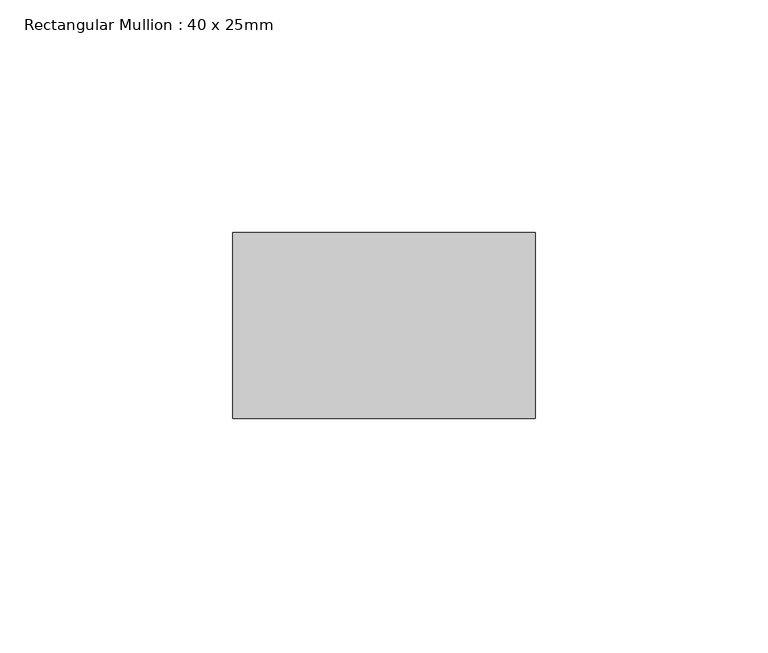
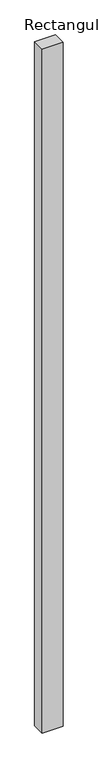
"""IFC4 building model written with IfcOpenShell, lengths in millimetres: member geometry, Rectangular Mullion : 40 x 25mm."""

import ifcopenshell
import ifcopenshell.guid

model = None  # the IFC model being written
_history = None  # IfcOwnerHistory: only IFC2X3 demands one
_inside = {}  # id of a spatial element -> (the spatial element, [elements in it])
_under = {}  # id of a project, library or spatial element -> (it, [spatial elements below it])
_declared = {}  # id of a project -> (the project, [libraries it declares])
_typed = {}  # id of a type object -> (the type object, [elements of that type])
_made_of = {}  # id of a material, layer set ... -> (it, [elements and type objects made of it])


def new_model(schema):
    """Start an empty IFC model of exactly this schema.

    Asked for "IFC4X3", IfcOpenShell would pick the latest addendum, in which some entities
    have other attributes; the version numbers below select the first issue.
    IFC2X3 requires an IfcOwnerHistory on every rooted entity: one is made here for all.
    """
    global model, _history
    if schema == "IFC4X3":
        model = ifcopenshell.file(schema_version=(4, 3, 0, 0))
    else:
        model = ifcopenshell.file(schema=schema)
    _inside.clear()
    _under.clear()
    _declared.clear()
    _typed.clear()
    _made_of.clear()
    _history = None
    if model.schema == "IFC2X3":
        org = make("IfcOrganization", Name="unknown")
        user = make(
            "IfcPersonAndOrganization",
            ThePerson=make("IfcPerson", FamilyName="unknown"),
            TheOrganization=org,
        )
        app = make(
            "IfcApplication",
            ApplicationDeveloper=org,
            Version="unknown",
            ApplicationFullName="unknown",
            ApplicationIdentifier="unknown",
        )
        _history = make(
            "IfcOwnerHistory",
            OwningUser=user,
            OwningApplication=app,
            ChangeAction="ADDED",
            CreationDate=0,
        )
    return model


def make(cls, **values):
    """One entity of the class cls with the attributes given. An attribute that is None is left unset."""
    return model.create_entity(
        cls, **{name: value for name, value in values.items() if value is not None}
    )


def rooted(cls, **values):
    """An entity with a GlobalId (a new one), such as an element, a storey or a relation."""
    return make(cls, GlobalId=ifcopenshell.guid.new(), OwnerHistory=_history, **values)


def si_unit(unit_type, name, prefix=None):
    """IfcSIUnit, for example si_unit("LENGTHUNIT", "METRE", prefix="MILLI")."""
    return make("IfcSIUnit", UnitType=unit_type, Prefix=prefix, Name=name)


def assignment(units):
    """IfcUnitAssignment: the units of a project."""
    return None if units is None else make("IfcUnitAssignment", Units=units)


def point(xyz):
    """IfcCartesianPoint."""
    return None if xyz is None else make("IfcCartesianPoint", Coordinates=xyz)


def direction(xyz):
    """IfcDirection."""
    return None if xyz is None else make("IfcDirection", DirectionRatios=xyz)


def frame(location, z_axis=None, x_axis=None):
    """IfcAxis2Placement3D, a coordinate frame: its origin and axes. An axis left out is left unset."""
    return make(
        "IfcAxis2Placement3D",
        Location=point(location),
        Axis=direction(z_axis),
        RefDirection=direction(x_axis),
    )


def origin():
    """The frame at (0, 0, 0) with its axes left unset."""
    return frame((0.0, 0.0, 0.0))


def place(relative_to, where):
    """IfcLocalPlacement: puts the frame where relative to a parent placement (None: the world)."""
    return make(
        "IfcLocalPlacement", PlacementRelTo=relative_to, RelativePlacement=where
    )


def context(
    kind, dimensions, precision=None, world=None, true_north=None, identifier=None
):
    """IfcGeometricRepresentationContext, for example the 3D "Model" context."""
    return make(
        "IfcGeometricRepresentationContext",
        ContextIdentifier=identifier,
        ContextType=kind,
        CoordinateSpaceDimension=dimensions,
        Precision=precision,
        WorldCoordinateSystem=world,
        TrueNorth=true_north,
    )


def project(units=None, contexts=None):
    """IfcProject with its units and contexts."""
    return rooted(
        "IfcProject",
        Name="project",
        RepresentationContexts=contexts,
        UnitsInContext=assignment(units),
    )


def spatial(cls, under=None, at=None, **own):
    """A site, building, storey or space (cls), placed at a placement, below another one or the project."""
    s = rooted(cls, ObjectPlacement=at, **own)
    if under is not None:
        _under.setdefault(under.id(), (under, []))[1].append(s)
    return s


def polyline(points):
    """IfcPolyline through the points."""
    return make("IfcPolyline", Points=[point(p) for p in points])


def outline(outer, holes=None, kind="AREA"):
    """IfcArbitraryClosedProfileDef: a profile drawn as a closed curve; with holes, ...WithVoids."""
    if holes is None:
        return make("IfcArbitraryClosedProfileDef", ProfileType=kind, OuterCurve=outer)
    return make(
        "IfcArbitraryProfileDefWithVoids",
        ProfileType=kind,
        OuterCurve=outer,
        InnerCurves=holes,
    )


def extrude(swept, where, along, depth):
    """IfcExtrudedAreaSolid: the profile swept, set in the frame where, extruded along a direction by depth."""
    return make(
        "IfcExtrudedAreaSolid",
        SweptArea=swept,
        Position=where,
        ExtrudedDirection=direction(along),
        Depth=depth,
    )


def shape(context_of_items, identifier, shape_type, items):
    """IfcShapeRepresentation: the items that make up one representation, for example the "Body"."""
    return make(
        "IfcShapeRepresentation",
        ContextOfItems=context_of_items,
        RepresentationIdentifier=identifier,
        RepresentationType=shape_type,
        Items=items,
    )


def source(mapping_origin, context_of_items, identifier, shape_type, items):
    """IfcRepresentationMap: a shape defined once, which mapped items show again and again."""
    return make(
        "IfcRepresentationMap",
        MappingOrigin=mapping_origin,
        MappedRepresentation=shape(context_of_items, identifier, shape_type, items),
    )


def transform(
    local_origin,
    x_axis=None,
    y_axis=None,
    z_axis=None,
    scale=None,
    scale2=None,
    scale3=None,
    uniform=True,
):
    """IfcCartesianTransformationOperator3D, or its non-uniform kind. x_axis, y_axis, z_axis: its Axis1, 2, 3."""
    if uniform:
        return make(
            "IfcCartesianTransformationOperator3D",
            Axis1=direction(x_axis),
            Axis2=direction(y_axis),
            LocalOrigin=point(local_origin),
            Scale=scale,
            Axis3=direction(z_axis),
        )
    return make(
        "IfcCartesianTransformationOperator3DnonUniform",
        Axis1=direction(x_axis),
        Axis2=direction(y_axis),
        LocalOrigin=point(local_origin),
        Scale=scale,
        Axis3=direction(z_axis),
        Scale2=scale2,
        Scale3=scale3,
    )


def mapped(mapping_source, mapping_target):
    """IfcMappedItem: shows the shape of a source again, moved by a transform."""
    return make(
        "IfcMappedItem", MappingSource=mapping_source, MappingTarget=mapping_target
    )


def made_of(thing, what):
    """Note that an element or type object is made of a material, layer set ...; save() writes the relation."""
    if what is not None:
        _made_of.setdefault(what.id(), (what, []))[1].append(thing)
    return thing


def element(
    cls,
    number,
    at=None,
    inside=None,
    cuts=None,
    type_object=None,
    material=None,
    context=None,
    identifier="Body",
    shape_type=None,
    held_by="IfcProductDefinitionShape",
    body=None,
    shapes=None,
    **own,
):
    """One element of the class cls, such as IfcWall. Its Tag is "e" and its number.

    at: its placement. inside: the storey or other place that contains it. cuts: it is an
    opening in that element (IfcRelVoidsElement). A single representation is given by context,
    identifier, shape_type and body (its items); several are given by shapes. held_by: the class
    of the entity that holds the representations. save() writes the other relations.
    """
    e = rooted(cls, Tag="e%d" % number, ObjectPlacement=at, **own)
    if body is not None:
        shapes = [shape(context, identifier, shape_type, body)]
    if shapes is not None:
        e.Representation = make(held_by, Representations=shapes)
    if inside is not None:
        _inside.setdefault(inside.id(), (inside, []))[1].append(e)
    if cuts is not None:
        rooted(
            "IfcRelVoidsElement", RelatingBuildingElement=cuts, RelatedOpeningElement=e
        )
    if type_object is not None:
        _typed.setdefault(type_object.id(), (type_object, []))[1].append(e)
    return made_of(e, material)


def aggregate(whole, parts):
    """IfcRelAggregates: a whole, such as a stair, and the parts it consists of."""
    return rooted("IfcRelAggregates", RelatingObject=whole, RelatedObjects=parts)


def save(model, path):
    """Write the relations noted so far, then the file.

    IfcRelAggregates (storeys below a building ...), IfcRelContainedInSpatialStructure (elements
    in a storey), IfcRelDefinesByType, IfcRelAssociatesMaterial and IfcRelDeclares: one each for
    every whole, place, type object, material and project.
    """
    for whole, parts in _under.values():
        aggregate(whole, parts)
    for where, things in _inside.values():
        rooted(
            "IfcRelContainedInSpatialStructure",
            RelatedElements=things,
            RelatingStructure=where,
        )
    for kind, things in _typed.values():
        rooted("IfcRelDefinesByType", RelatedObjects=things, RelatingType=kind)
    for what, things in _made_of.values():
        rooted("IfcRelAssociatesMaterial", RelatedObjects=things, RelatingMaterial=what)
    for by, libraries in _declared.values():
        rooted("IfcRelDeclares", RelatingContext=by, RelatedDefinitions=libraries)
    model.write(path)


def rectangular_mullion_40_x_25mm_06cb735c(model_context):
    return source(origin(), model_context, "Body", "SweptSolid", [
        extrude(outline(polyline([(0.0, -20.0), (0.0, -60.0), (-65.0, -60.0), (-65.0, -20.0), (0.0, -20.0)])), frame((0.0, 0.0, -2233.8), z_axis=(0.0, 0.0, 1.0), x_axis=(1.0, 0.0, 0.0)), (0.0, 0.0, 1.0), 2233.8),
    ])


if __name__ == "__main__":
    model = new_model("IFC4")
    model_context = context("Model", 3, world=origin())
    ifc_project = project(units=[si_unit("LENGTHUNIT", "METRE", prefix="MILLI")], contexts=[model_context])
    site = spatial("IfcSite", under=ifc_project)
    building = spatial("IfcBuilding", under=site)
    placement = place(None, origin())
    rectangular_mullion_40_x_25mm_shape = rectangular_mullion_40_x_25mm_06cb735c(model_context)
    element("IfcMember", 1, ObjectType="Rectangular Mullion : 40 x 25mm", at=placement, inside=building, context=model_context, shape_type="MappedRepresentation", body=[
        mapped(rectangular_mullion_40_x_25mm_shape, transform((0.0, 0.0, 0.0), x_axis=(1.0, 0.0, 0.0), y_axis=(0.0, 1.0, 0.0), z_axis=(0.0, 0.0, 1.0))),
    ])
    save(model, "model.ifc")
